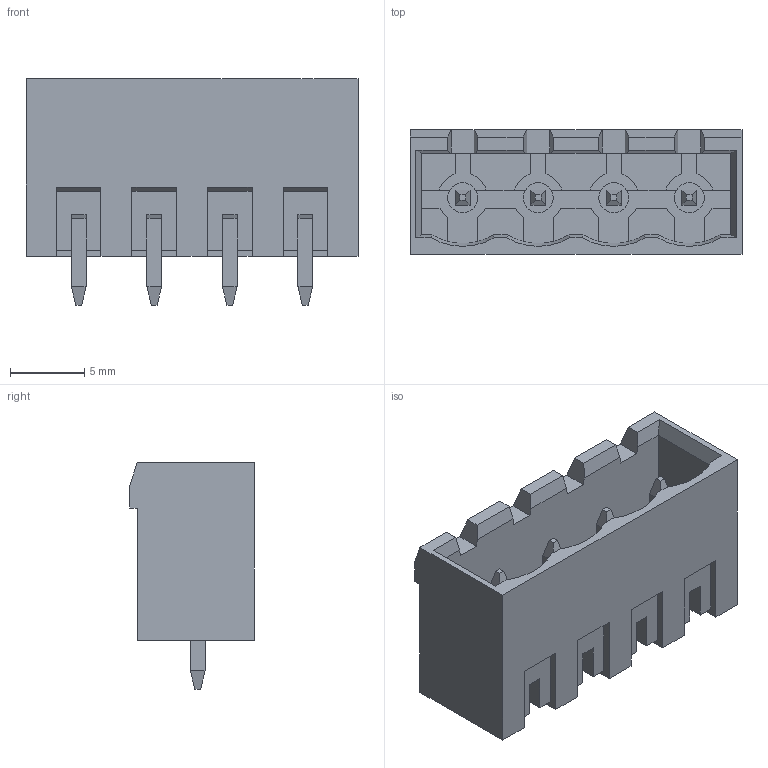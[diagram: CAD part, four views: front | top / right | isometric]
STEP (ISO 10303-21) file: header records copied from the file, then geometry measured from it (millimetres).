
FILE_DESCRIPTION((''),'2;1');
FILE_NAME('395314504','2015-02-23T',('me'),(''),'PRO/ENGINEER BY PARAMETRIC TECHNOLOGY CORPORATION, 2011490','PRO/ENGINEER BY PARAMETRIC TECHNOLOGY CORPORATION, 2011490','');
FILE_SCHEMA(('CONFIG_CONTROL_DESIGN'));
Length unit declared in the file: inch
Products named in the file (1): 395314504
Bounding box: 22.33 x 8.38 x 15.24 mm (x, y, z)
Volume: 923.3 mm3; surface area: 1992.1 mm2
Topology: 1 solids, 1 shells, 249 faces, 681 edges, 442 vertices
Faces by surface type: plane 217, cylinder 28, cone 4
Entity records: 7768 total; most frequent: CARTESIAN_POINT 1409, ORIENTED_EDGE 1338, DIRECTION 1249, EDGE_CURVE 669, VECTOR 581, LINE 581, VERTEX_POINT 426, AXIS2_PLACEMENT_3D 334
